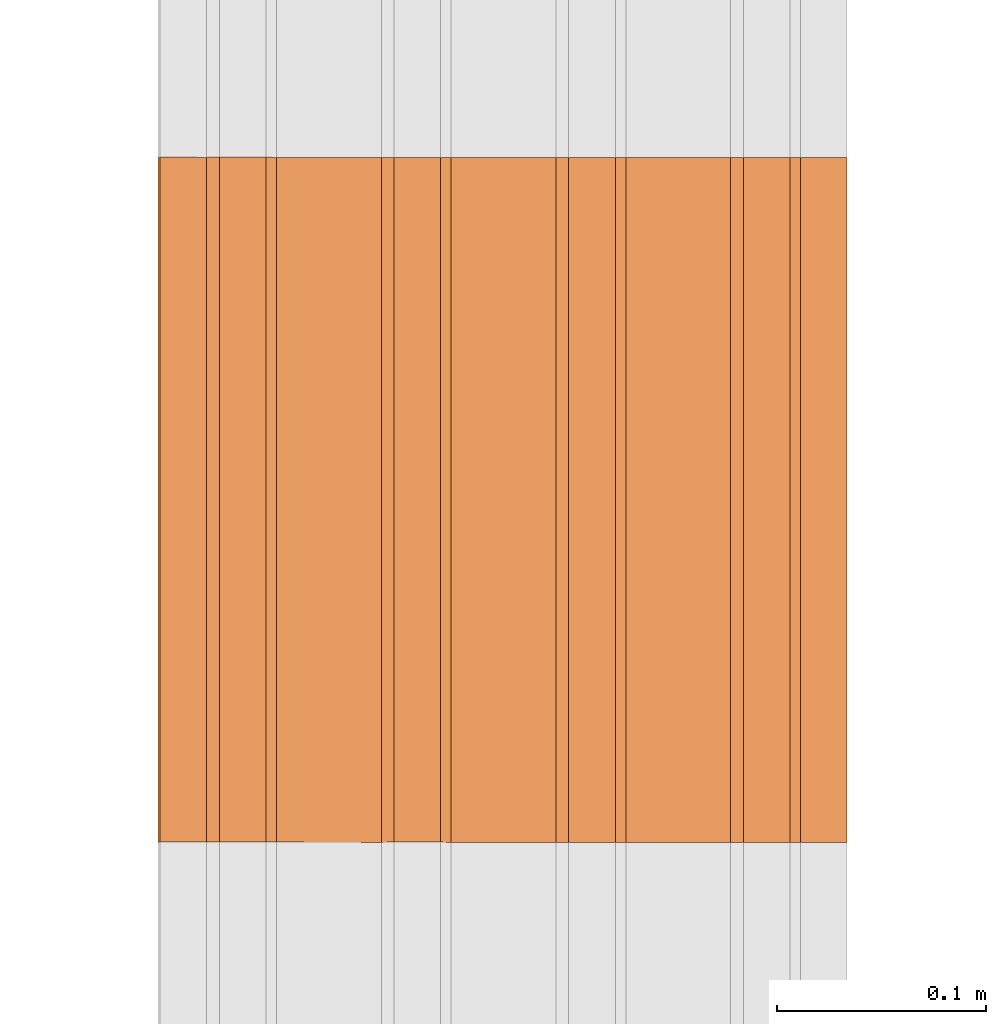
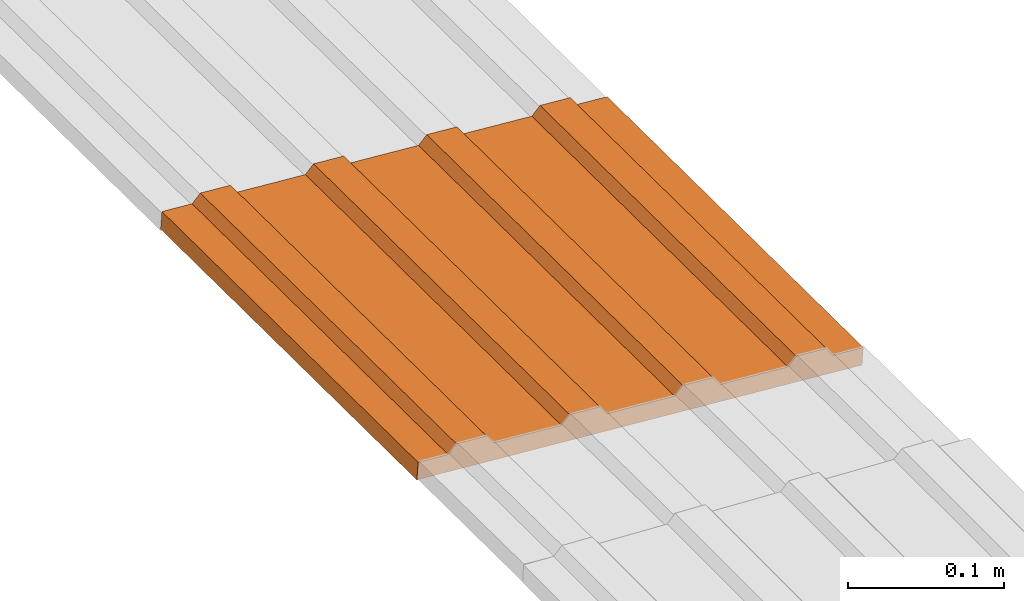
# One storey, part 201 of 237: 1 proxy.
"""IFC2X3 building model written with IfcOpenShell, lengths in millimetres."""

from ifc_helpers import new_model, entity, si_unit, converted_unit, derived_unit, money_unit, direction, frame, origin_with_axes, place, context, subcontext, project, spatial, open_shell, surface_model, source, transform, mapped, type_object, element, save


model = new_model("IFC2X3")

# Units and contexts
model_context = context("Model", 3, precision=0.01, world=origin_with_axes(), true_north=direction((0.0, 1.0)))
body_context = subcontext(model_context, "Body", "Model", "MODEL_VIEW")
ifc_project = project(units=[si_unit("LENGTHUNIT", "METRE", prefix="MILLI"), si_unit("AREAUNIT", "SQUARE_METRE"), si_unit("VOLUMEUNIT", "CUBIC_METRE"), converted_unit("PLANEANGLEUNIT", "DEGREE", entity("IfcPlaneAngleMeasure", 0.0174532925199), si_unit("PLANEANGLEUNIT", "RADIAN"), dimensions=[0, 0, 0, 0, 0, 0, 0]), money_unit("USD"), converted_unit("TIMEUNIT", "Year", entity("IfcTimeMeasure", 31556926.0), si_unit("TIMEUNIT", "SECOND"), dimensions=[0, 0, 1, 0, 0, 0, 0]), si_unit("MASSUNIT", "GRAM", prefix="KILO"), si_unit("THERMODYNAMICTEMPERATUREUNIT", "DEGREE_CELSIUS"), si_unit("LUMINOUSINTENSITYUNIT", "LUMEN"), si_unit("ENERGYUNIT", "JOULE", prefix="MEGA"), derived_unit("THERMALCONDUCTANCEUNIT", [(si_unit("POWERUNIT", "WATT"), 1), (si_unit("LENGTHUNIT", "METRE"), -1), (si_unit("THERMODYNAMICTEMPERATUREUNIT", "KELVIN"), -1)]), derived_unit("SPECIFICHEATCAPACITYUNIT", [(si_unit("ENERGYUNIT", "JOULE"), 1), (si_unit("MASSUNIT", "GRAM", prefix="KILO"), -1), (si_unit("THERMODYNAMICTEMPERATUREUNIT", "KELVIN"), -1)]), derived_unit("MASSDENSITYUNIT", [(si_unit("MASSUNIT", "GRAM", prefix="KILO"), 1), (si_unit("VOLUMEUNIT", "CUBIC_METRE"), -1)])], contexts=[model_context])

# Site, building, storey
site_placement = place(None, origin_with_axes())
site = spatial("IfcSite", under=ifc_project, at=site_placement, Name="Local", CompositionType="ELEMENT")
building_placement = place(site_placement, origin_with_axes())
building = spatial("IfcBuilding", under=site, at=building_placement, Name="Construção", CompositionType="ELEMENT")
storey_placement = place(building_placement, origin_with_axes())
storey = spatial("IfcBuildingStorey", under=building, at=storey_placement, Name="Pavimento Térreo", CompositionType="ELEMENT", Elevation=0.0)

# Proxy
building_element_proxy_type = type_object("IfcBuildingElementProxyType", Name="Piso Direcional 27", PredefinedType="NOTDEFINED")
shared_shape = source(origin_with_axes(), body_context, "Body", "SurfaceModel", [
    surface_model("IfcShellBasedSurfaceModel", [(-0.06669038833, -46.8098794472, 7.64196157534), (327.881262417, -46.8098794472, 10.5039200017), (327.827001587, -40.7216835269, 16.7215951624), (-0.120951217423, -40.7216835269, 13.859636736)], [open_shell([[[0, 1, 2, 3]]])]),
    surface_model("IfcShellBasedSurfaceModel", [(327.926125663, -153.790778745, 5.36310120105), (328.147057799, 175.23662949, -19.9532140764), (328.031046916, 176.259549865, -6.65968357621), (328.016068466, 153.952606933, -4.94332321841), (327.954318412, 148.887331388, 2.13253212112), (327.939339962, 126.580388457, 3.84889247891), (327.993600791, 120.492192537, -2.36878268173), (327.959899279, 70.3015709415, 1.49302812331), (327.898149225, 65.2362953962, 8.56888346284), (327.883170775, 42.929352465, 10.2852438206), (327.937431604, 36.8411565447, 4.06756865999), (327.903730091, -13.3494650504, 7.92937946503), (327.841980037, -18.4147405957, 15.0052348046), (327.827001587, -40.7216835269, 16.7215951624), (327.881262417, -46.8098794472, 10.5039200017), (327.847560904, -97.0005010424, 14.3657308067), (327.78581085, -102.065776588, 21.4415861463), (327.7708324, -124.372719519, 23.1579465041), (327.825093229, -130.460915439, 16.9402713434), (327.810114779, -152.76785837, 18.6566317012)], [open_shell([[[0, 1, 2, 3, 4, 5, 6, 7, 8, 9, 10, 11, 12, 13, 14, 15, 16, 17, 18, 19]]])]),
    surface_model("IfcShellBasedSurfaceModel", [(-0.105972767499, -18.4147405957, 12.1432763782), (327.841980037, -18.4147405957, 15.0052348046), (327.903730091, -13.3494650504, 7.92937946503), (-0.0442227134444, -13.3494650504, 5.06742103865)], [open_shell([[[0, 1, 2, 3]]])]),
    surface_model("IfcShellBasedSurfaceModel", [(-0.162141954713, -102.065776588, 18.5796277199), (327.78581085, -102.065776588, 21.4415861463), (327.847560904, -97.0005010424, 14.3657308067), (-0.100391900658, -97.0005010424, 11.5037723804)], [open_shell([[[0, 1, 2, 3]]])]),
    surface_model("IfcShellBasedSurfaceModel", [(-0.049803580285, 65.2362953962, 5.70692503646), (327.898149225, 65.2362953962, 8.56888346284), (327.959899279, 70.3015709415, 1.49302812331), (0.0119464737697, 70.3015709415, -1.36893030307)], [open_shell([[[0, 1, 2, 3]]])]),
    surface_model("IfcShellBasedSurfaceModel", [(-0.010521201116, 36.8411565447, 1.20561023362), (327.937431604, 36.8411565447, 4.06756865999), (327.883170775, 42.929352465, 10.2852438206), (-0.0647820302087, 42.929352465, 7.42328539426)], [open_shell([[[0, 1, 2, 3]]])]),
    surface_model("IfcShellBasedSurfaceModel", [(-0.122859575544, -130.460915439, 14.0783129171), (327.825093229, -130.460915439, 16.9402713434), (327.7708324, -124.372719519, 23.1579465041), (-0.177120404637, -124.372719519, 20.2959880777)], [open_shell([[[0, 1, 2, 3]]])]),
    surface_model("IfcShellBasedSurfaceModel", [(0.0830941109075, 176.259549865, -9.52164200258), (0.0681156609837, 153.952606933, -7.80528164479), (328.016068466, 153.952606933, -4.94332321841), (328.031046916, 176.259549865, -6.65968357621)], [open_shell([[[0, 1, 2, 3]]])]),
    surface_model("IfcShellBasedSurfaceModel", [(0.0456479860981, 120.492192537, -5.2307411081), (327.993600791, 120.492192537, -2.36878268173), (327.939339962, 126.580388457, 3.84889247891), (-0.00861284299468, 126.580388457, 0.986934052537)], [open_shell([[[0, 1, 2, 3]]])]),
    surface_model("IfcShellBasedSurfaceModel", [(0.00636560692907, 148.887331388, -0.729426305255), (327.954318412, 148.887331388, 2.13253212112), (328.016068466, 153.952606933, -4.94332321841), (0.0681156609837, 153.952606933, -7.80528164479)], [open_shell([[[0, 1, 2, 3]]])]),
    surface_model("IfcShellBasedSurfaceModel", [(-0.010521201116, 36.8411565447, 1.20561023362), (-0.0442227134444, -13.3494650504, 5.06742103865), (327.903730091, -13.3494650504, 7.92937946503), (327.937431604, 36.8411565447, 4.06756865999)], [open_shell([[[0, 1, 2, 3]]])]),
    surface_model("IfcShellBasedSurfaceModel", [(0.0456479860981, 120.492192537, -5.2307411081), (0.0119464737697, 70.3015709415, -1.36893030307), (327.959899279, 70.3015709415, 1.49302812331), (327.993600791, 120.492192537, -2.36878268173)], [open_shell([[[0, 1, 2, 3]]])]),
    surface_model("IfcShellBasedSurfaceModel", [(0.00636560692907, 148.887331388, -0.729426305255), (-0.00861284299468, 126.580388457, 0.986934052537), (327.939339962, 126.580388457, 3.84889247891), (327.954318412, 148.887331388, 2.13253212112)], [open_shell([[[0, 1, 2, 3]]])]),
    surface_model("IfcShellBasedSurfaceModel", [(0.0456479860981, 120.492192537, -5.2307411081), (-0.00861284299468, 126.580388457, 0.986934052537), (0.00636560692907, 148.887331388, -0.729426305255), (0.0681156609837, 153.952606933, -7.80528164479), (0.0830941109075, 176.259549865, -9.52164200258), (0.199104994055, 175.23662949, -22.8151725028), (-0.0218271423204, -153.790778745, 2.50114277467), (-0.137838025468, -152.76785837, 15.7946732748), (-0.122859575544, -130.460915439, 14.0783129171), (-0.177120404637, -124.372719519, 20.2959880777), (-0.162141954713, -102.065776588, 18.5796277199), (-0.100391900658, -97.0005010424, 11.5037723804), (-0.06669038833, -46.8098794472, 7.64196157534), (-0.120951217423, -40.7216835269, 13.859636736), (-0.105972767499, -18.4147405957, 12.1432763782), (-0.0442227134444, -13.3494650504, 5.06742103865), (-0.010521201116, 36.8411565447, 1.20561023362), (-0.0647820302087, 42.929352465, 7.42328539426), (-0.049803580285, 65.2362953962, 5.70692503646), (0.0119464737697, 70.3015709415, -1.36893030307)], [open_shell([[[0, 1, 2, 3, 4, 5, 6, 7, 8, 9, 10, 11, 12, 13, 14, 15, 16, 17, 18, 19]]])]),
    surface_model("IfcShellBasedSurfaceModel", [(327.827001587, -40.7216835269, 16.7215951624), (327.841980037, -18.4147405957, 15.0052348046), (-0.105972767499, -18.4147405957, 12.1432763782), (-0.120951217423, -40.7216835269, 13.859636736)], [open_shell([[[0, 1, 2, 3]]])]),
    surface_model("IfcShellBasedSurfaceModel", [(-0.06669038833, -46.8098794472, 7.64196157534), (-0.100391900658, -97.0005010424, 11.5037723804), (327.847560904, -97.0005010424, 14.3657308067), (327.881262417, -46.8098794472, 10.5039200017)], [open_shell([[[0, 1, 2, 3]]])]),
    surface_model("IfcShellBasedSurfaceModel", [(327.883170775, 42.929352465, 10.2852438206), (327.898149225, 65.2362953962, 8.56888346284), (-0.049803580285, 65.2362953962, 5.70692503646), (-0.0647820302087, 42.929352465, 7.42328539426)], [open_shell([[[0, 1, 2, 3]]])]),
    surface_model("IfcShellBasedSurfaceModel", [(327.7708324, -124.372719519, 23.1579465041), (327.78581085, -102.065776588, 21.4415861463), (-0.162141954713, -102.065776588, 18.5796277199), (-0.177120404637, -124.372719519, 20.2959880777)], [open_shell([[[0, 1, 2, 3]]])]),
    surface_model("IfcShellBasedSurfaceModel", [(328.147057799, 175.23662949, -19.9532140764), (0.199104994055, 175.23662949, -22.8151725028), (0.0830941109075, 176.259549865, -9.52164200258), (328.031046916, 176.259549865, -6.65968357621)], [open_shell([[[0, 1, 2, 3]]])]),
    surface_model("IfcShellBasedSurfaceModel", [(327.926125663, -153.790778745, 5.36310120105), (-0.0218271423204, -153.790778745, 2.50114277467), (0.199104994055, 175.23662949, -22.8151725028), (328.147057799, 175.23662949, -19.9532140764)], [open_shell([[[0, 1, 2, 3]]])]),
    surface_model("IfcShellBasedSurfaceModel", [(327.810114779, -152.76785837, 18.6566317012), (327.825093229, -130.460915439, 16.9402713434), (-0.122859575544, -130.460915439, 14.0783129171), (-0.137838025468, -152.76785837, 15.7946732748)], [open_shell([[[0, 1, 2, 3]]])]),
    surface_model("IfcShellBasedSurfaceModel", [(-0.0218271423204, -153.790778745, 2.50114277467), (327.926125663, -153.790778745, 5.36310120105), (327.810114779, -152.76785837, 18.6566317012), (-0.137838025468, -152.76785837, 15.7946732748)], [open_shell([[[0, 1, 2, 3]]])]),
])
proxy_placement = place(storey_placement, frame((123836.801621, 36710.8060069, -7205.48985899), z_axis=(0.0, 0.0, 1.0), x_axis=(0.0, -1.0, 0.0)))
element("IfcBuildingElementProxy", 1, at=proxy_placement, inside=storey, type_object=building_element_proxy_type, Name="Objeto-0055", context=body_context, shape_type="MappedRepresentation", body=[
    mapped(shared_shape, transform((0.0, 0.0, 0.0))),
])

save(model, "model.ifc")
